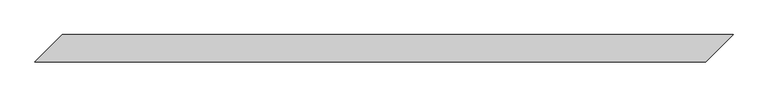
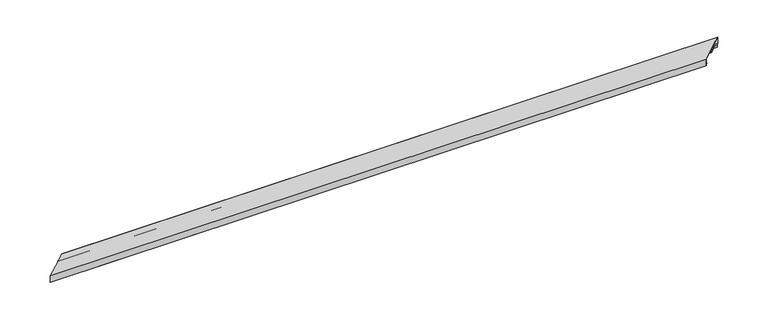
"""IFC4 building model written with IfcOpenShell, lengths in millimetres: proxy geometry, АК5_1 Парапет : АК5_1 Парапет."""

from ifc_helpers import new_model, si_unit, origin, place, context, project, spatial, faceted_brep, source, transform, mapped, element, save


def generic_models_abf757f7(model_context):
    return source(origin(), model_context, "Body", "Brep", [
        faceted_brep([(-150.0, -150.0, 62.265966), (-150.0, -150.0, -20.4), (7850.2156595, -150.0, -20.4), (7850.2156595, -150.0, 62.265966), (177.1, 177.1, 33.6484242), (0.0, 0.0, 49.1426665), (8000.2156595, 0.0, 49.1426665), (8177.3156595, 177.1, 33.6484242), (177.1, 177.1, -51.4916897), (8177.3156595, 177.1, -51.4916897), (162.9578644, 162.9578644, -37.3495541), (8163.1735239, 162.9578644, -37.3495541), (162.9578644, 162.9578644, -77.3495541), (8163.1735239, 162.9578644, -77.3495541), (160.0, 160.0, -77.3495541), (8160.2156595, 160.0, -77.3495541), (160.0, 160.0, -57.3495541), (8160.2156595, 160.0, -57.3495541), (161.0, 161.0, -57.3495541), (8161.2156595, 161.0, -57.3495541), (161.0, 161.0, -76.3495541), (8161.2156595, 161.0, -76.3495541), (161.9578644, 161.9578644, -76.3495541), (8162.1735239, 161.9578644, -76.3495541), (161.9578644, 161.9578644, -34.9353406), (8162.1735239, 161.9578644, -34.9353406), (176.1, 176.1, -49.0774762), (8176.3156595, 176.1, -49.0774762), (176.1, 176.1, 32.732093), (8176.3156595, 176.1, 32.732093), (0.0, 0.0, 48.1388467), (8000.2156595, 0.0, 48.1388467), (7851.2156595, -149.0, 61.1746575), (-149.0, -149.0, 61.1746575), (-149.0, -149.0, -17.9857864), (7851.2156595, -149.0, -17.9857864), (-133.0294373, -133.0294373, -2.0152237), (7867.1862222, -133.0294373, -2.0152237), (-132.3223305, -132.3223305, -2.7223305), (7867.893329, -132.3223305, -2.7223305)], [[[0, 1, 2, 3]], [[4, 5, 0, 3, 6, 7]], [[8, 4, 7, 9]], [[10, 8, 9, 11]], [[12, 10, 11, 13]], [[14, 12, 13, 15]], [[16, 14, 15, 17]], [[18, 16, 17, 19]], [[20, 18, 19, 21]], [[22, 20, 21, 23]], [[24, 22, 23, 25]], [[26, 24, 25, 27]], [[28, 26, 27, 29]], [[30, 28, 29, 31, 32, 33]], [[34, 33, 32, 35]], [[36, 34, 35, 37]], [[38, 36, 37, 39]], [[1, 38, 39, 2]], [[30, 5, 4, 8, 10, 12, 14, 16, 18, 20, 22, 24, 26, 28]], [[5, 30, 33, 34, 36, 38, 1, 0]], [[6, 31, 29, 27, 25, 23, 21, 19, 17, 15, 13, 11, 9, 7]], [[31, 6, 3, 2, 39, 37, 35, 32]]]),
        faceted_brep([(-148.0, -148.0, -12.5), (-146.0, -146.0, -12.5), (7854.2156595, -146.0, -12.5), (7852.2156595, -148.0, -12.5), (-148.0, -148.0, 60.083349), (7852.2156595, -148.0, 60.083349), (1.5433638, 1.5433638, 47.0), (0.0, 0.0, 47.1350268), (8000.2156595, 0.0, 47.1350268), (8001.7590233, 1.5433638, 47.0), (1.5433638, 1.5433638, 4.0), (8001.7590233, 1.5433638, 4.0), (67.5433638, 67.5433638, 4.0), (8067.7590233, 67.5433638, 4.0), (67.5433638, 67.5433638, 41.2257482), (8067.7590233, 67.5433638, 41.2257482), (114.5464367, 114.5464367, 37.1135122), (8114.7620962, 114.5464367, 37.1135122), (114.3721252, 114.3721252, 35.1211228), (8114.5877847, 114.3721252, 35.1211228), (69.5433638, 69.5433638, 39.0431312), (8069.7590233, 69.5433638, 39.0431312), (69.5433638, 69.5433638, 2.0), (8069.7590233, 69.5433638, 2.0), (0.0, 0.0, 2.0), (8000.2156595, 0.0, 2.0), (7999.7590233, -0.4566362, 2.0), (-0.4566362, -0.4566362, 2.0), (-0.4566362, -0.4566362, 45.1673377), (7999.7590233, -0.4566362, 45.1673377), (-146.0, -146.0, 57.900732), (7854.2156595, -146.0, 57.900732)], [[[0, 1, 2, 3]], [[4, 0, 3, 5]], [[6, 7, 4, 5, 8, 9]], [[10, 6, 9, 11]], [[12, 10, 11, 13]], [[14, 12, 13, 15]], [[16, 14, 15, 17]], [[18, 16, 17, 19]], [[20, 18, 19, 21]], [[22, 20, 21, 23]], [[24, 22, 23, 25, 26, 27]], [[28, 27, 26, 29]], [[30, 28, 29, 31]], [[1, 30, 31, 2]], [[24, 7, 6, 10, 12, 14, 16, 18, 20, 22]], [[7, 24, 27, 28, 30, 1, 0, 4]], [[8, 25, 23, 21, 19, 17, 15, 13, 11, 9]], [[25, 8, 5, 3, 2, 31, 29, 26]]]),
    ])


if __name__ == "__main__":
    model = new_model("IFC4")
    model_context = context("Model", 3, world=origin())
    ifc_project = project(units=[si_unit("LENGTHUNIT", "METRE", prefix="MILLI")], contexts=[model_context])
    site = spatial("IfcSite", under=ifc_project)
    building = spatial("IfcBuilding", under=site)
    placement = place(None, origin())
    generic_models_shape = generic_models_abf757f7(model_context)
    element("IfcBuildingElementProxy", 1, Name="АК5_1 Парапет : АК5_1 Парапет", ObjectType="АК5_1 Парапет : АК5_1 Парапет", at=placement, inside=building, context=model_context, shape_type="MappedRepresentation", body=[
        mapped(generic_models_shape, transform((0.0, 0.0, 0.0), x_axis=(1.0, 0.0, 0.0), y_axis=(0.0, 1.0, 0.0), z_axis=(0.0, 0.0, 1.0))),
    ])
    save(model, "model.ifc")
